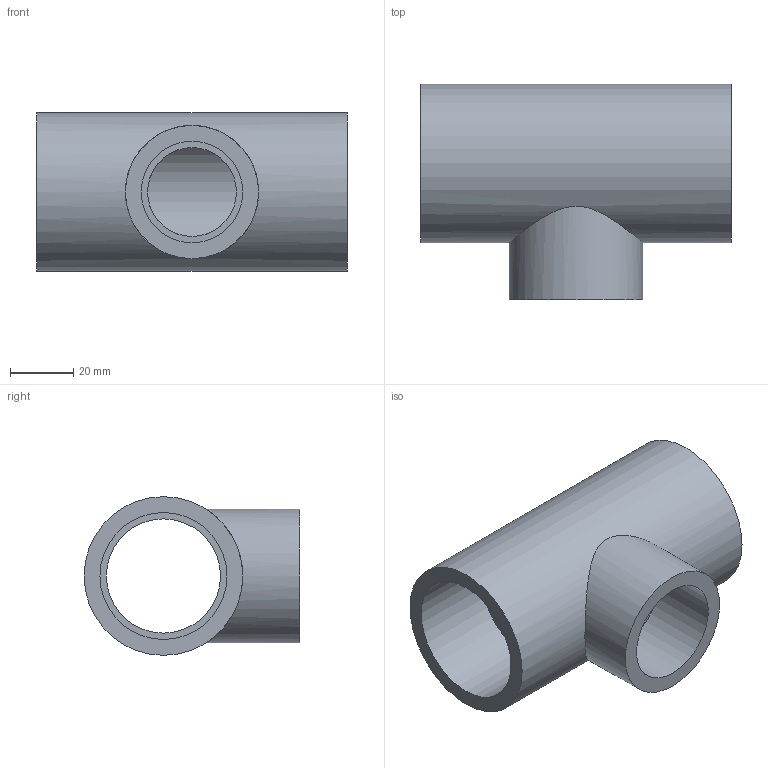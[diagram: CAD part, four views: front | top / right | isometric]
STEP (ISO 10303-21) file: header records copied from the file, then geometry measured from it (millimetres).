
FILE_DESCRIPTION(/* description */ ('PVC ti a 90° ridotto incollaggio metrico'),/* implementation_level */ '2;1');
FILE_NAME(/* name */ 'C:\Users\POLYPIPE\Desktop\DATASET INVENTOR\LIBRERIA EFFAST\RACCORDI 3DxWEB\RDR\3D_RDRTRD\3D_RDRTRD040D.stp',/* time_stamp */ '2018-01-19T15:46:27+01:00',/* author */ ('POLYPIPE'),/* organization */ ('Polypipe Italia s.r.l.'),/* preprocessor_version */ 'ST-DEVELOPER v16.1',/* originating_system */ 'Autodesk Inventor 2016',/* authorisation */ '');
FILE_SCHEMA (('CONFIG_CONTROL_DESIGN'));
Length unit declared in the file: millimetre
Products named in the file (1): 3D_RDRTRD
Bounding box: 98 x 68 x 50 mm (x, y, z)
Volume: 87673.4 mm3; surface area: 33404 mm2
Topology: 1 solids, 1 shells, 13 faces, 23 edges, 16 vertices
Faces by surface type: cylinder 7, plane 6
Full cylindrical faces by diameter (mm): 28 x1, 32 x1, 36 x1, 40 x2, 42 x1, 50 x1
Entity records: 414 total; most frequent: CARTESIAN_POINT 156, DIRECTION 52, EDGE_LOOP 28, ORIENTED_EDGE 28, AXIS2_PLACEMENT_3D 26, FACE_BOUND 15, VERTEX_POINT 14, EDGE_CURVE 14
